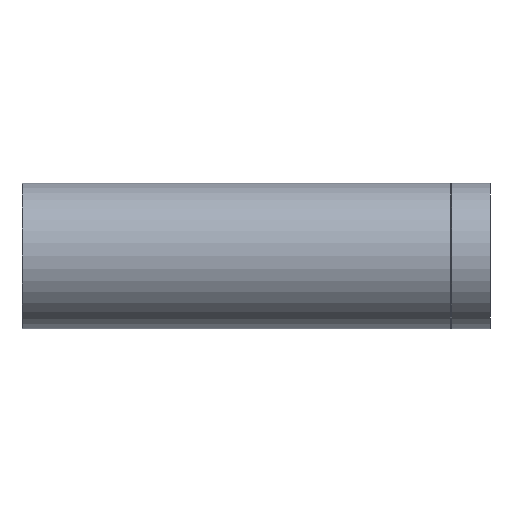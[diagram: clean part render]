
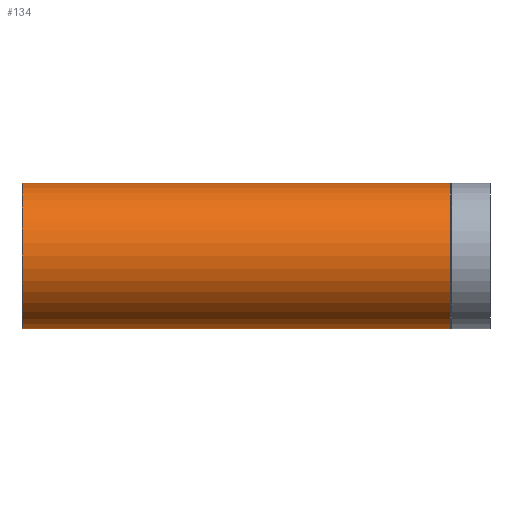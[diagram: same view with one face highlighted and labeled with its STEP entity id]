
A CAD part, left-side view. The second image highlights one B-rep face of the part: STEP entity #134.
In plain terms, the highlighted cylindrical face has radius 28 mm (diameter 56 mm), a full revolution.
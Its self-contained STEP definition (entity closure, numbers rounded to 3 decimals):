
#16=ELLIPSE($,#151,30.307,28.);
#17=ELLIPSE($,#152,73.168,28.);
#20=CYLINDRICAL_SURFACE($,#150,28.);
#27=FACE_BOUND($,#51,.T.);
#28=FACE_BOUND($,#52,.T.);
#29=FACE_BOUND($,#53,.T.);
#51=EDGE_LOOP($,(#108,#109));
#52=EDGE_LOOP($,(#110));
#53=EDGE_LOOP($,(#111));
#71=CIRCLE($,#149,28.);
#72=CIRCLE($,#153,28.);
#80=VERTEX_POINT($,#223);
#81=VERTEX_POINT($,#226);
#82=VERTEX_POINT($,#227);
#83=VERTEX_POINT($,#230);
#93=EDGE_CURVE($,#80,#80,#71,.T.);
#94=EDGE_CURVE($,#81,#82,#16,.T.);
#95=EDGE_CURVE($,#82,#81,#17,.T.);
#96=EDGE_CURVE($,#83,#83,#72,.T.);
#108=ORIENTED_EDGE($,*,*,#94,.T.);
#109=ORIENTED_EDGE($,*,*,#95,.T.);
#110=ORIENTED_EDGE($,*,*,#96,.T.);
#111=ORIENTED_EDGE($,*,*,#93,.T.);
#134=ADVANCED_FACE($,(#27,#28,#29),#20,.T.);
#149=AXIS2_PLACEMENT_3D($,#224,#178,#179);
#150=AXIS2_PLACEMENT_3D($,#225,#180,#181);
#151=AXIS2_PLACEMENT_3D($,#228,#182,#183);
#152=AXIS2_PLACEMENT_3D($,#229,#184,#185);
#153=AXIS2_PLACEMENT_3D($,#231,#186,#187);
#178=DIRECTION('center_axis',(0.,1.,0.));
#179=DIRECTION('ref_axis',(1.,0.,0.));
#180=DIRECTION('center_axis',(0.,1.,0.));
#181=DIRECTION('ref_axis',(1.,0.,0.));
#182=DIRECTION('center_axis',(-0.383,-0.924,0.));
#183=DIRECTION('ref_axis',(0.924,-0.383,0.));
#184=DIRECTION('center_axis',(-0.924,0.383,0.));
#185=DIRECTION('ref_axis',(-0.383,-0.924,0.));
#186=DIRECTION('center_axis',(0.,-1.,0.));
#187=DIRECTION('ref_axis',(1.,0.,0.));
#223=CARTESIAN_POINT('',(28.,15.323,0.));
#224=CARTESIAN_POINT('Origin',(0.,15.323,0.));
#225=CARTESIAN_POINT('Origin',(0.,0.,0.));
#226=CARTESIAN_POINT('',(0.,60.,-28.));
#227=CARTESIAN_POINT('',(0.,60.,28.));
#228=CARTESIAN_POINT('Origin',(0.,60.,0.));
#229=CARTESIAN_POINT('Origin',(0.,60.,0.));
#230=CARTESIAN_POINT('',(-28.,180.,0.));
#231=CARTESIAN_POINT('Origin',(0.,180.,0.));
